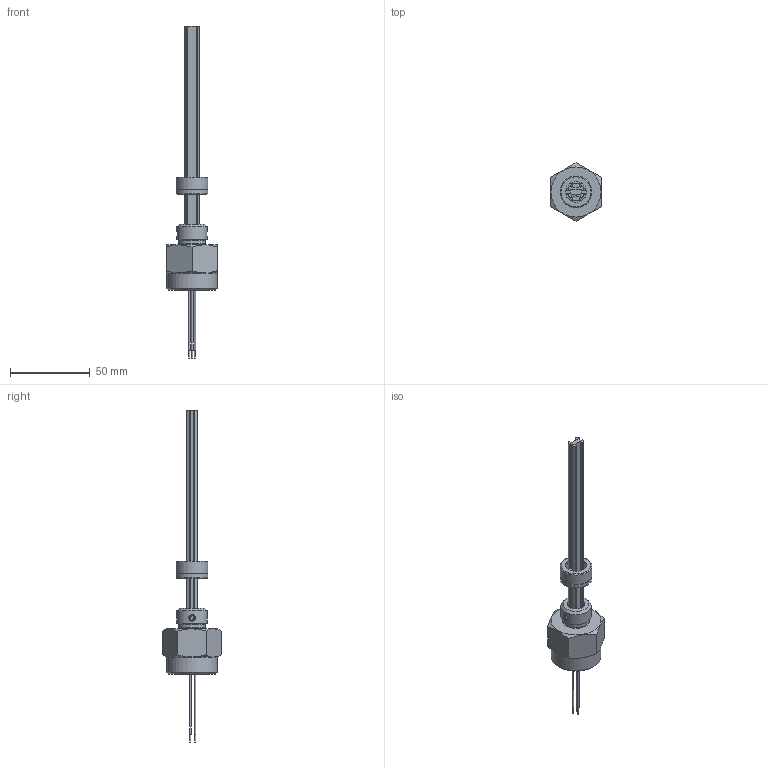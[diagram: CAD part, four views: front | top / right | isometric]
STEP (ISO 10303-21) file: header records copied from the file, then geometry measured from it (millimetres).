
FILE_DESCRIPTION (( 'STEP AP214' ), '1' );
FILE_NAME ('CH37_Cable_extern_flange-inch.STEP', '2019-04-24T13:10:57', ( '' ), ( '' ), 'SwSTEP 2.0', 'SolidWorks 2017', '' );
FILE_SCHEMA (( 'AUTOMOTIVE_DESIGN' ));
Length unit declared in the file: millimetre
Products named in the file (12): FLA082X; SUP085X; Cable3; CUR081X; TTAP078X; CH37_Cable_extern_flange-inch; PKIT075X; Cable1; Cable2; PUN025X; MIM308X_MIM308; CUR080X
Assembly tree (13 placements, depth 3):
  CH37_Cable_extern_flange-inch
    SUP085X
    MIM308X_MIM308  x2
    TTAP078X
    FLA082X
    PKIT075X
      CUR080X
      CUR081X
      PUN025X  x2
    Cable1
    Cable2
    Cable3
Bounding box: 32 x 36.95 x 208.7 mm (x, y, z)
Volume: 29582.6 mm3; surface area: 16637.8 mm2
Topology: 12 solids, 12 shells, 264 faces, 616 edges, 397 vertices
Faces by surface type: plane 123, cylinder 81, cone 55, torus 3, bspline 2
Full cylindrical faces by diameter (mm): 0.7 x6, 0.8 x6, 1 x3, 1.7 x2, 1.75 x4, 2.5 x4, 3.3 x4, 3.6 x2, 7.48 x1, 7.8 x1, 9.4 x1, 10 x2, 13.1 x1, 16.5 x1, 16.75 x1, 17.9 x1, 18.2 x1, 19.05 x1, 19.8 x1, 19.9 x1, 31.5 x1
Entity records: 7084 total; most frequent: CARTESIAN_POINT 1601, DIRECTION 1104, ORIENTED_EDGE 870, AXIS2_PLACEMENT_3D 442, EDGE_CURVE 435, EDGE_LOOP 352, VERTEX_POINT 329, FACE_OUTER_BOUND 280
